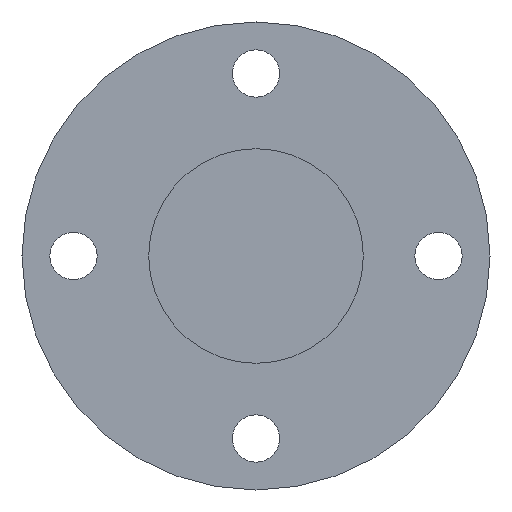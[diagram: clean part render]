
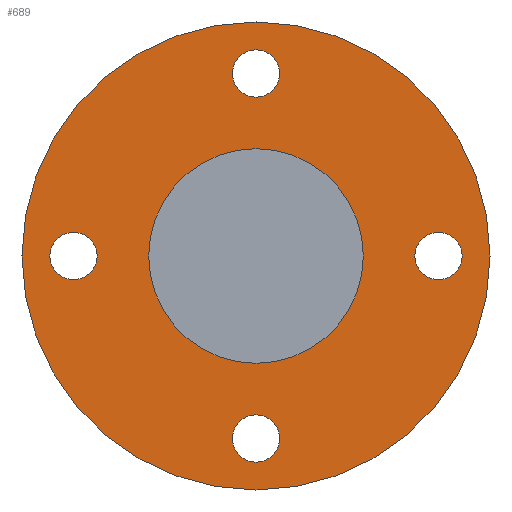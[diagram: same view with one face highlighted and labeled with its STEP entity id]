
A CAD part, left-side view. The second image highlights one B-rep face of the part: STEP entity #689.
In plain terms, the highlighted planar face has unit normal (-1, 0, 0).
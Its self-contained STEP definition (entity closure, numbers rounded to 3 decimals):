
#578=CARTESIAN_POINT('',(110.0,42.5,-5.5));
#579=VERTEX_POINT('',#578);
#580=CARTESIAN_POINT('',(110.0,42.5,0.));
#581=DIRECTION('',(1.0,0.0,0.0));
#582=DIRECTION('',(0.0,0.0,-1.0));
#583=AXIS2_PLACEMENT_3D('',#580,#581,#582);
#584=CIRCLE('',#583,5.5);
#585=EDGE_CURVE('',#579,#579,#584,.T.);
#598=CARTESIAN_POINT('',(110.0,-5.5,-42.5));
#599=VERTEX_POINT('',#598);
#600=CARTESIAN_POINT('',(110.0,0.,-42.5));
#601=DIRECTION('',(1.0,0.0,0.0));
#602=DIRECTION('',(0.0,-1.0,0.0));
#603=AXIS2_PLACEMENT_3D('',#600,#601,#602);
#604=CIRCLE('',#603,5.5);
#605=EDGE_CURVE('',#599,#599,#604,.T.);
#618=CARTESIAN_POINT('',(110.0,-42.5,5.5));
#619=VERTEX_POINT('',#618);
#620=CARTESIAN_POINT('',(110.0,-42.5,0.));
#621=DIRECTION('',(1.0,0.0,0.0));
#622=DIRECTION('',(0.0,0.0,1.0));
#623=AXIS2_PLACEMENT_3D('',#620,#621,#622);
#624=CIRCLE('',#623,5.5);
#625=EDGE_CURVE('',#619,#619,#624,.T.);
#638=CARTESIAN_POINT('',(110.0,5.5,42.5));
#639=VERTEX_POINT('',#638);
#640=CARTESIAN_POINT('',(110.0,0.0,42.5));
#641=DIRECTION('',(1.0,0.0,0.0));
#642=DIRECTION('',(0.0,1.0,0.0));
#643=AXIS2_PLACEMENT_3D('',#640,#641,#642);
#644=CIRCLE('',#643,5.5);
#645=EDGE_CURVE('',#639,#639,#644,.T.);
#650=CARTESIAN_POINT('',(110.0,0.0,39.75));
#651=DIRECTION('',(-1.0,0.0,0.0));
#652=DIRECTION('',(0.0,0.0,1.0));
#653=AXIS2_PLACEMENT_3D('',#650,#651,#652);
#654=PLANE('',#653);
#655=CARTESIAN_POINT('',(110.0,0.0,54.5));
#656=VERTEX_POINT('',#655);
#657=CARTESIAN_POINT('',(110.0,0.0,0.0));
#658=DIRECTION('',(-1.0,0.0,0.0));
#659=DIRECTION('',(0.0,0.0,1.0));
#660=AXIS2_PLACEMENT_3D('',#657,#658,#659);
#661=CIRCLE('',#660,54.5);
#662=EDGE_CURVE('',#656,#656,#661,.T.);
#663=ORIENTED_EDGE('',*,*,#662,.T.);
#664=EDGE_LOOP('',(#663));
#665=FACE_OUTER_BOUND('',#664,.T.);
#666=ORIENTED_EDGE('',*,*,#585,.T.);
#667=EDGE_LOOP('',(#666));
#668=FACE_BOUND('',#667,.T.);
#669=ORIENTED_EDGE('',*,*,#605,.T.);
#670=EDGE_LOOP('',(#669));
#671=FACE_BOUND('',#670,.T.);
#672=ORIENTED_EDGE('',*,*,#625,.T.);
#673=EDGE_LOOP('',(#672));
#674=FACE_BOUND('',#673,.T.);
#675=ORIENTED_EDGE('',*,*,#645,.T.);
#676=EDGE_LOOP('',(#675));
#677=FACE_BOUND('',#676,.T.);
#678=CARTESIAN_POINT('',(110.0,0.0,25.));
#679=VERTEX_POINT('',#678);
#680=CARTESIAN_POINT('',(110.0,0.0,0.0));
#681=DIRECTION('',(-1.0,0.0,0.0));
#682=DIRECTION('',(0.0,0.0,1.0));
#683=AXIS2_PLACEMENT_3D('',#680,#681,#682);
#684=CIRCLE('',#683,25.);
#685=EDGE_CURVE('',#679,#679,#684,.T.);
#686=ORIENTED_EDGE('',*,*,#685,.F.);
#687=EDGE_LOOP('',(#686));
#688=FACE_BOUND('',#687,.T.);
#689=ADVANCED_FACE('',(#665,#668,#671,#674,#677,#688),#654,.T.);
